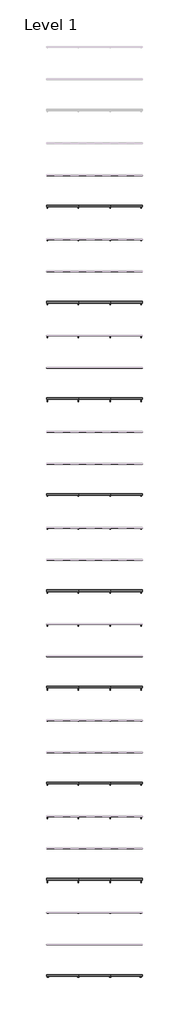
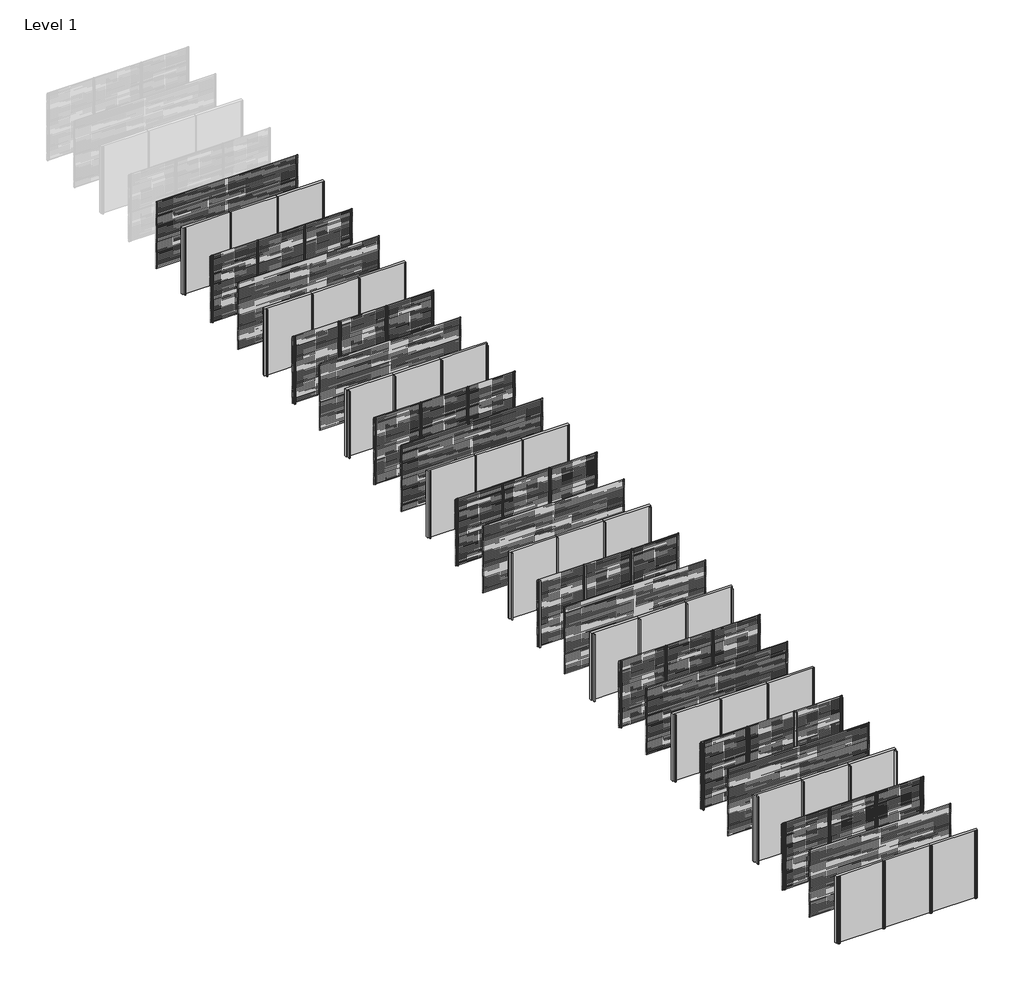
# One storey, part 1 of 27: 68 members, 60 plates.
"""IFC4 building model written with IfcOpenShell, lengths in millimetres."""

from ifc_helpers import new_model, si_unit, origin, origin_with_axes, place, context, project, spatial, polyline, outline, extrude, transform, mapped, element, save
from components import rectangular_mullion_e1f482b2, rectangular_mullion_21e3ddae, rectangular_mullion_fb497acc, rectangular_mullion_3facce28, rectangular_mullion_6cf2c509, rectangular_mullion_8b77bd57, rectangular_mullion_2c867e25, rectangular_mullion_7803f5c4, rectangular_mullion_82152e2f, rectangular_mullion_146f339b, rectangular_mullion_aa1047c5, rectangular_mullion_c2c7736a, rectangular_mullion_35b0a916, rectangular_mullion_bd250e2e, rectangular_mullion_7b49c8f1, rectangular_mullion_2b84ad7e, rectangular_mullion_0fd695e7, rectangular_mullion_9b796d85, rectangular_mullion_dfb17e98, rectangular_mullion_6132f1f1, rectangular_mullion_8f153c19, rectangular_mullion_5b30f3fd, rectangular_mullion_5e0e8e0a, rectangular_mullion_d2d38772, rectangular_mullion_efb80f74, rectangular_mullion_aaa1fb1b, rectangular_mullion_ea9d012c, empty_system_panel_empty_90a97279

model = new_model("IFC4")

# Units and contexts
model_context = context("Model", 3, world=origin())
ifc_project = project(units=[si_unit("LENGTHUNIT", "METRE", prefix="MILLI")], contexts=[model_context])

# Site, building, storey
site = spatial("IfcSite", under=ifc_project)
building = spatial("IfcBuilding", under=site)
storey = spatial("IfcBuildingStorey", under=building, Name="Level 1", Elevation=0.0)

# Members
placement = place(None, origin())
rectangular_mullion_shape = rectangular_mullion_e1f482b2(model_context)
element("IfcMember", 1, ObjectType="Rectangular Mullion : NLRS_21_CWM_drager LD.0195_Storax", at=placement, inside=storey, context=model_context, shape_type="MappedRepresentation", body=[
    mapped(rectangular_mullion_shape, transform((4000.0, -10000.0, 0.0), x_axis=(-1.0, 0.0, 0.0), y_axis=(0.0, 1.0, 0.0), z_axis=(0.0, 0.0, -1.0))),
])
element("IfcMember", 2, ObjectType="Rectangular Mullion : NLRS_21_CWM_drager LD.0195_Storax", at=placement, inside=storey, context=model_context, shape_type="MappedRepresentation", body=[
    mapped(rectangular_mullion_shape, transform((2000.0, -10000.0, 0.0), x_axis=(-1.0, 0.0, 0.0), y_axis=(0.0, 1.0, 0.0), z_axis=(0.0, 0.0, -1.0))),
])
rectangular_mullion_2_shape = rectangular_mullion_21e3ddae(model_context)
element("IfcMember", 3, ObjectType="Rectangular Mullion : NLRS_21_CWM_drager LD.0460_Storax", at=placement, inside=storey, context=model_context, shape_type="MappedRepresentation", body=[
    mapped(rectangular_mullion_2_shape, transform((4000.0, -12000.0, 0.0), x_axis=(-1.0, 0.0, 0.0), y_axis=(0.0, 1.0, 0.0), z_axis=(0.0, 0.0, -1.0))),
])
element("IfcMember", 4, ObjectType="Rectangular Mullion : NLRS_21_CWM_drager LD.0460_Storax", at=placement, inside=storey, context=model_context, shape_type="MappedRepresentation", body=[
    mapped(rectangular_mullion_2_shape, transform((2000.0, -12000.0, 0.0), x_axis=(-1.0, 0.0, 0.0), y_axis=(0.0, 1.0, 0.0), z_axis=(0.0, 0.0, -1.0))),
])
element("IfcMember", 5, ObjectType="Rectangular Mullion : NLRS_21_CWM_drager LD.0460_Storax", at=placement, inside=storey, context=model_context, shape_type="MappedRepresentation", body=[
    mapped(rectangular_mullion_2_shape, transform((4000.0, -16000.0, 0.0), x_axis=(-1.0, 0.0, 0.0), y_axis=(0.0, 1.0, 0.0), z_axis=(0.0, 0.0, -1.0))),
])
element("IfcMember", 6, ObjectType="Rectangular Mullion : NLRS_21_CWM_drager LD.0460_Storax", at=placement, inside=storey, context=model_context, shape_type="MappedRepresentation", body=[
    mapped(rectangular_mullion_2_shape, transform((2000.0, -16000.0, 0.0), x_axis=(-1.0, 0.0, 0.0), y_axis=(0.0, 1.0, 0.0), z_axis=(0.0, 0.0, -1.0))),
])
rectangular_mullion_3_shape = rectangular_mullion_fb497acc(model_context)
element("IfcMember", 7, ObjectType="Rectangular Mullion : NLRS_21_CWM_drager LD.0995_Storax", at=placement, inside=storey, context=model_context, shape_type="MappedRepresentation", body=[
    mapped(rectangular_mullion_3_shape, transform((4000.0, -18000.0, 0.0), x_axis=(-1.0, 0.0, 0.0), y_axis=(0.0, 1.0, 0.0), z_axis=(0.0, 0.0, -1.0))),
])
element("IfcMember", 8, ObjectType="Rectangular Mullion : NLRS_21_CWM_drager LD.0995_Storax", at=placement, inside=storey, context=model_context, shape_type="MappedRepresentation", body=[
    mapped(rectangular_mullion_3_shape, transform((2000.0, -18000.0, 0.0), x_axis=(-1.0, 0.0, 0.0), y_axis=(0.0, 1.0, 0.0), z_axis=(0.0, 0.0, -1.0))),
])
element("IfcMember", 9, ObjectType="Rectangular Mullion : NLRS_21_CWM_drager LD.0995_Storax", at=placement, inside=storey, context=model_context, shape_type="MappedRepresentation", body=[
    mapped(rectangular_mullion_3_shape, transform((4000.0, -22000.0, 0.0), x_axis=(-1.0, 0.0, 0.0), y_axis=(0.0, 1.0, 0.0), z_axis=(0.0, 0.0, -1.0))),
])
element("IfcMember", 10, ObjectType="Rectangular Mullion : NLRS_21_CWM_drager LD.0995_Storax", at=placement, inside=storey, context=model_context, shape_type="MappedRepresentation", body=[
    mapped(rectangular_mullion_3_shape, transform((2000.0, -22000.0, 0.0), x_axis=(-1.0, 0.0, 0.0), y_axis=(0.0, 1.0, 0.0), z_axis=(0.0, 0.0, -1.0))),
])
rectangular_mullion_4_shape = rectangular_mullion_3facce28(model_context)
element("IfcMember", 11, ObjectType="Rectangular Mullion : NLRS_21_CWM_drager SD.014_Storax", at=placement, inside=storey, context=model_context, shape_type="MappedRepresentation", body=[
    mapped(rectangular_mullion_4_shape, transform((4000.0, -24000.0, 0.0), x_axis=(-1.0, 0.0, 0.0), y_axis=(0.0, 1.0, 0.0), z_axis=(0.0, 0.0, -1.0))),
])
element("IfcMember", 12, ObjectType="Rectangular Mullion : NLRS_21_CWM_drager SD.014_Storax", at=placement, inside=storey, context=model_context, shape_type="MappedRepresentation", body=[
    mapped(rectangular_mullion_4_shape, transform((2000.0, -24000.0, 0.0), x_axis=(-1.0, 0.0, 0.0), y_axis=(0.0, 1.0, 0.0), z_axis=(0.0, 0.0, -1.0))),
])
element("IfcMember", 13, ObjectType="Rectangular Mullion : NLRS_21_CWM_drager SD.014_Storax", at=placement, inside=storey, context=model_context, shape_type="MappedRepresentation", body=[
    mapped(rectangular_mullion_4_shape, transform((4000.0, -28000.0, 0.0), x_axis=(-1.0, 0.0, 0.0), y_axis=(0.0, 1.0, 0.0), z_axis=(0.0, 0.0, -1.0))),
])
element("IfcMember", 14, ObjectType="Rectangular Mullion : NLRS_21_CWM_drager SD.014_Storax", at=placement, inside=storey, context=model_context, shape_type="MappedRepresentation", body=[
    mapped(rectangular_mullion_4_shape, transform((2000.0, -28000.0, 0.0), x_axis=(-1.0, 0.0, 0.0), y_axis=(0.0, 1.0, 0.0), z_axis=(0.0, 0.0, -1.0))),
])
rectangular_mullion_5_shape = rectangular_mullion_6cf2c509(model_context)
element("IfcMember", 15, ObjectType="Rectangular Mullion : NLRS_21_CWM_drager SD.054_Storax", at=placement, inside=storey, context=model_context, shape_type="MappedRepresentation", body=[
    mapped(rectangular_mullion_5_shape, transform((4000.0, -30000.0, 0.0), x_axis=(-1.0, 0.0, 0.0), y_axis=(0.0, 1.0, 0.0), z_axis=(0.0, 0.0, -1.0))),
])
element("IfcMember", 16, ObjectType="Rectangular Mullion : NLRS_21_CWM_drager SD.054_Storax", at=placement, inside=storey, context=model_context, shape_type="MappedRepresentation", body=[
    mapped(rectangular_mullion_5_shape, transform((2000.0, -30000.0, 0.0), x_axis=(-1.0, 0.0, 0.0), y_axis=(0.0, 1.0, 0.0), z_axis=(0.0, 0.0, -1.0))),
])
element("IfcMember", 17, ObjectType="Rectangular Mullion : NLRS_21_CWM_drager SD.054_Storax", at=placement, inside=storey, context=model_context, shape_type="MappedRepresentation", body=[
    mapped(rectangular_mullion_5_shape, transform((4000.0, -34000.0, 0.0), x_axis=(-1.0, 0.0, 0.0), y_axis=(0.0, 1.0, 0.0), z_axis=(0.0, 0.0, -1.0))),
])
element("IfcMember", 18, ObjectType="Rectangular Mullion : NLRS_21_CWM_drager SD.054_Storax", at=placement, inside=storey, context=model_context, shape_type="MappedRepresentation", body=[
    mapped(rectangular_mullion_5_shape, transform((2000.0, -34000.0, 0.0), x_axis=(-1.0, 0.0, 0.0), y_axis=(0.0, 1.0, 0.0), z_axis=(0.0, 0.0, -1.0))),
])
rectangular_mullion_6_shape = rectangular_mullion_8b77bd57(model_context)
element("IfcMember", 19, ObjectType="Rectangular Mullion : NLRS_21_CWM_drager SD.100_Storax", at=placement, inside=storey, context=model_context, shape_type="MappedRepresentation", body=[
    mapped(rectangular_mullion_6_shape, transform((4000.0, -36000.0, 0.0), x_axis=(-1.0, 0.0, 0.0), y_axis=(0.0, 1.0, 0.0), z_axis=(0.0, 0.0, -1.0))),
])
element("IfcMember", 20, ObjectType="Rectangular Mullion : NLRS_21_CWM_drager SD.100_Storax", at=placement, inside=storey, context=model_context, shape_type="MappedRepresentation", body=[
    mapped(rectangular_mullion_6_shape, transform((2000.0, -36000.0, 0.0), x_axis=(-1.0, 0.0, 0.0), y_axis=(0.0, 1.0, 0.0), z_axis=(0.0, 0.0, -1.0))),
])
element("IfcMember", 21, ObjectType="Rectangular Mullion : NLRS_21_CWM_drager SD.100_Storax", at=placement, inside=storey, context=model_context, shape_type="MappedRepresentation", body=[
    mapped(rectangular_mullion_6_shape, transform((4000.0, -40000.0, 0.0), x_axis=(-1.0, 0.0, 0.0), y_axis=(0.0, 1.0, 0.0), z_axis=(0.0, 0.0, -1.0))),
])
element("IfcMember", 22, ObjectType="Rectangular Mullion : NLRS_21_CWM_drager SD.100_Storax", at=placement, inside=storey, context=model_context, shape_type="MappedRepresentation", body=[
    mapped(rectangular_mullion_6_shape, transform((2000.0, -40000.0, 0.0), x_axis=(-1.0, 0.0, 0.0), y_axis=(0.0, 1.0, 0.0), z_axis=(0.0, 0.0, -1.0))),
])
rectangular_mullion_7_shape = rectangular_mullion_2c867e25(model_context)
element("IfcMember", 23, ObjectType="Rectangular Mullion : NLRS_21_CWM_drager LD.0440_Storax", at=placement, inside=storey, context=model_context, shape_type="MappedRepresentation", body=[
    mapped(rectangular_mullion_7_shape, transform((4000.0, -42000.0, 0.0), x_axis=(-1.0, 0.0, 0.0), y_axis=(0.0, 1.0, 0.0), z_axis=(0.0, 0.0, -1.0))),
])
element("IfcMember", 24, ObjectType="Rectangular Mullion : NLRS_21_CWM_drager LD.0440_Storax", at=placement, inside=storey, context=model_context, shape_type="MappedRepresentation", body=[
    mapped(rectangular_mullion_7_shape, transform((2000.0, -42000.0, 0.0), x_axis=(-1.0, 0.0, 0.0), y_axis=(0.0, 1.0, 0.0), z_axis=(0.0, 0.0, -1.0))),
])
element("IfcMember", 25, ObjectType="Rectangular Mullion : NLRS_21_CWM_drager LD.0440_Storax", at=placement, inside=storey, context=model_context, shape_type="MappedRepresentation", body=[
    mapped(rectangular_mullion_7_shape, transform((4000.0, -46000.0, 0.0), x_axis=(-1.0, 0.0, 0.0), y_axis=(0.0, 1.0, 0.0), z_axis=(0.0, 0.0, -1.0))),
])
element("IfcMember", 26, ObjectType="Rectangular Mullion : NLRS_21_CWM_drager LD.0440_Storax", at=placement, inside=storey, context=model_context, shape_type="MappedRepresentation", body=[
    mapped(rectangular_mullion_7_shape, transform((2000.0, -46000.0, 0.0), x_axis=(-1.0, 0.0, 0.0), y_axis=(0.0, 1.0, 0.0), z_axis=(0.0, 0.0, -1.0))),
])
rectangular_mullion_8_shape = rectangular_mullion_7803f5c4(model_context)
element("IfcMember", 27, ObjectType="Rectangular Mullion : NLRS_21_CWM_drager LD.1250_Storax", at=placement, inside=storey, context=model_context, shape_type="MappedRepresentation", body=[
    mapped(rectangular_mullion_8_shape, transform((4000.0, -48000.0, 0.0), x_axis=(-1.0, 0.0, 0.0), y_axis=(0.0, 1.0, 0.0), z_axis=(0.0, 0.0, -1.0))),
])
element("IfcMember", 28, ObjectType="Rectangular Mullion : NLRS_21_CWM_drager LD.1250_Storax", at=placement, inside=storey, context=model_context, shape_type="MappedRepresentation", body=[
    mapped(rectangular_mullion_8_shape, transform((2000.0, -48000.0, 0.0), x_axis=(-1.0, 0.0, 0.0), y_axis=(0.0, 1.0, 0.0), z_axis=(0.0, 0.0, -1.0))),
])
element("IfcMember", 29, ObjectType="Rectangular Mullion : NLRS_21_CWM_drager LD.1250_Storax", at=placement, inside=storey, context=model_context, shape_type="MappedRepresentation", body=[
    mapped(rectangular_mullion_8_shape, transform((4000.0, -52000.0, 0.0), x_axis=(-1.0, 0.0, 0.0), y_axis=(0.0, 1.0, 0.0), z_axis=(0.0, 0.0, -1.0))),
])
element("IfcMember", 30, ObjectType="Rectangular Mullion : NLRS_21_CWM_drager LD.1250_Storax", at=placement, inside=storey, context=model_context, shape_type="MappedRepresentation", body=[
    mapped(rectangular_mullion_8_shape, transform((2000.0, -52000.0, 0.0), x_axis=(-1.0, 0.0, 0.0), y_axis=(0.0, 1.0, 0.0), z_axis=(0.0, 0.0, -1.0))),
])
rectangular_mullion_9_shape = rectangular_mullion_82152e2f(model_context)
element("IfcMember", 31, ObjectType="Rectangular Mullion : NLRS_21_CWM_drager LD.0240_Storax", at=placement, inside=storey, context=model_context, shape_type="MappedRepresentation", body=[
    mapped(rectangular_mullion_9_shape, transform((4000.0, -54000.0, 0.0), x_axis=(-1.0, 0.0, 0.0), y_axis=(0.0, 1.0, 0.0), z_axis=(0.0, 0.0, -1.0))),
])
element("IfcMember", 32, ObjectType="Rectangular Mullion : NLRS_21_CWM_drager LD.0240_Storax", at=placement, inside=storey, context=model_context, shape_type="MappedRepresentation", body=[
    mapped(rectangular_mullion_9_shape, transform((2000.0, -54000.0, 0.0), x_axis=(-1.0, 0.0, 0.0), y_axis=(0.0, 1.0, 0.0), z_axis=(0.0, 0.0, -1.0))),
])
element("IfcMember", 33, ObjectType="Rectangular Mullion : NLRS_21_CWM_drager LD.0240_Storax", at=placement, inside=storey, context=model_context, shape_type="MappedRepresentation", body=[
    mapped(rectangular_mullion_9_shape, transform((4000.0, -58000.0, 0.0), x_axis=(-1.0, 0.0, 0.0), y_axis=(0.0, 1.0, 0.0), z_axis=(0.0, 0.0, -1.0))),
])
element("IfcMember", 34, ObjectType="Rectangular Mullion : NLRS_21_CWM_drager LD.0240_Storax", at=placement, inside=storey, context=model_context, shape_type="MappedRepresentation", body=[
    mapped(rectangular_mullion_9_shape, transform((2000.0, -58000.0, 0.0), x_axis=(-1.0, 0.0, 0.0), y_axis=(0.0, 1.0, 0.0), z_axis=(0.0, 0.0, -1.0))),
])
rectangular_mullion_10_shape = rectangular_mullion_146f339b(model_context)
element("IfcMember", 35, ObjectType="Rectangular Mullion : NLRS_21_CWM_drager LD.0195 - links_Storax", at=placement, inside=storey, context=model_context, shape_type="MappedRepresentation", body=[
    mapped(rectangular_mullion_10_shape, transform((0.0, -10000.0, 0.0), x_axis=(-1.0, 0.0, 0.0), y_axis=(0.0, 1.0, 0.0), z_axis=(0.0, 0.0, -1.0))),
])
rectangular_mullion_11_shape = rectangular_mullion_aa1047c5(model_context)
element("IfcMember", 36, ObjectType="Rectangular Mullion : NLRS_21_CWM_drager LD.0195 - rechts_Storax", at=placement, inside=storey, context=model_context, shape_type="MappedRepresentation", body=[
    mapped(rectangular_mullion_11_shape, transform((6000.0, -10000.0, 3000.0), x_axis=(1.0, 0.0, 0.0), y_axis=(0.0, 1.0, 0.0), z_axis=(0.0, 0.0, 1.0))),
])
rectangular_mullion_12_shape = rectangular_mullion_c2c7736a(model_context)
element("IfcMember", 37, ObjectType="Rectangular Mullion : NLRS_21_CWM_drager LD.0460 - links_Storax", at=placement, inside=storey, context=model_context, shape_type="MappedRepresentation", body=[
    mapped(rectangular_mullion_12_shape, transform((0.0, -12000.0, 0.0), x_axis=(-1.0, 0.0, 0.0), y_axis=(0.0, 1.0, 0.0), z_axis=(0.0, 0.0, -1.0))),
])
element("IfcMember", 38, ObjectType="Rectangular Mullion : NLRS_21_CWM_drager LD.0460 - links_Storax", at=placement, inside=storey, context=model_context, shape_type="MappedRepresentation", body=[
    mapped(rectangular_mullion_12_shape, transform((0.0, -16000.0, 0.0), x_axis=(-1.0, 0.0, 0.0), y_axis=(0.0, 1.0, 0.0), z_axis=(0.0, 0.0, -1.0))),
])
rectangular_mullion_13_shape = rectangular_mullion_35b0a916(model_context)
element("IfcMember", 39, ObjectType="Rectangular Mullion : NLRS_21_CWM_drager LD.0460 - rechts_Storax", at=placement, inside=storey, context=model_context, shape_type="MappedRepresentation", body=[
    mapped(rectangular_mullion_13_shape, transform((6000.0, -12000.0, 3000.0), x_axis=(1.0, 0.0, 0.0), y_axis=(0.0, 1.0, 0.0), z_axis=(0.0, 0.0, 1.0))),
])
element("IfcMember", 40, ObjectType="Rectangular Mullion : NLRS_21_CWM_drager LD.0460 - rechts_Storax", at=placement, inside=storey, context=model_context, shape_type="MappedRepresentation", body=[
    mapped(rectangular_mullion_13_shape, transform((6000.0, -16000.0, 3000.0), x_axis=(1.0, 0.0, 0.0), y_axis=(0.0, 1.0, 0.0), z_axis=(0.0, 0.0, 1.0))),
])
rectangular_mullion_14_shape = rectangular_mullion_bd250e2e(model_context)
element("IfcMember", 41, ObjectType="Rectangular Mullion : NLRS_21_CWM_drager LD.0995 - links_Storax", at=placement, inside=storey, context=model_context, shape_type="MappedRepresentation", body=[
    mapped(rectangular_mullion_14_shape, transform((0.0, -18000.0, 0.0), x_axis=(-1.0, 0.0, 0.0), y_axis=(0.0, 1.0, 0.0), z_axis=(0.0, 0.0, -1.0))),
])
element("IfcMember", 42, ObjectType="Rectangular Mullion : NLRS_21_CWM_drager LD.0995 - links_Storax", at=placement, inside=storey, context=model_context, shape_type="MappedRepresentation", body=[
    mapped(rectangular_mullion_14_shape, transform((0.0, -22000.0, 0.0), x_axis=(-1.0, 0.0, 0.0), y_axis=(0.0, 1.0, 0.0), z_axis=(0.0, 0.0, -1.0))),
])
rectangular_mullion_15_shape = rectangular_mullion_7b49c8f1(model_context)
element("IfcMember", 43, ObjectType="Rectangular Mullion : NLRS_21_CWM_drager LD.0995 - rechts_Storax", at=placement, inside=storey, context=model_context, shape_type="MappedRepresentation", body=[
    mapped(rectangular_mullion_15_shape, transform((6000.0, -18000.0, 3000.0), x_axis=(1.0, 0.0, 0.0), y_axis=(0.0, 1.0, 0.0), z_axis=(0.0, 0.0, 1.0))),
])
element("IfcMember", 44, ObjectType="Rectangular Mullion : NLRS_21_CWM_drager LD.0995 - rechts_Storax", at=placement, inside=storey, context=model_context, shape_type="MappedRepresentation", body=[
    mapped(rectangular_mullion_15_shape, transform((6000.0, -22000.0, 3000.0), x_axis=(1.0, 0.0, 0.0), y_axis=(0.0, 1.0, 0.0), z_axis=(0.0, 0.0, 1.0))),
])
rectangular_mullion_16_shape = rectangular_mullion_2b84ad7e(model_context)
element("IfcMember", 45, ObjectType="Rectangular Mullion : NLRS_21_CWM_drager SD.014 - links_Storax", at=placement, inside=storey, context=model_context, shape_type="MappedRepresentation", body=[
    mapped(rectangular_mullion_16_shape, transform((0.0, -24000.0, 0.0), x_axis=(-1.0, 0.0, 0.0), y_axis=(0.0, 1.0, 0.0), z_axis=(0.0, 0.0, -1.0))),
])
element("IfcMember", 46, ObjectType="Rectangular Mullion : NLRS_21_CWM_drager SD.014 - links_Storax", at=placement, inside=storey, context=model_context, shape_type="MappedRepresentation", body=[
    mapped(rectangular_mullion_16_shape, transform((0.0, -28000.0, 0.0), x_axis=(-1.0, 0.0, 0.0), y_axis=(0.0, 1.0, 0.0), z_axis=(0.0, 0.0, -1.0))),
])
rectangular_mullion_17_shape = rectangular_mullion_0fd695e7(model_context)
element("IfcMember", 47, ObjectType="Rectangular Mullion : NLRS_21_CWM_drager SD.014 - rechts_Storax", at=placement, inside=storey, context=model_context, shape_type="MappedRepresentation", body=[
    mapped(rectangular_mullion_17_shape, transform((6000.0, -24000.0, 3000.0), x_axis=(1.0, 0.0, 0.0), y_axis=(0.0, 1.0, 0.0), z_axis=(0.0, 0.0, 1.0))),
])
element("IfcMember", 48, ObjectType="Rectangular Mullion : NLRS_21_CWM_drager SD.014 - rechts_Storax", at=placement, inside=storey, context=model_context, shape_type="MappedRepresentation", body=[
    mapped(rectangular_mullion_17_shape, transform((6000.0, -28000.0, 3000.0), x_axis=(1.0, 0.0, 0.0), y_axis=(0.0, 1.0, 0.0), z_axis=(0.0, 0.0, 1.0))),
])
rectangular_mullion_18_shape = rectangular_mullion_9b796d85(model_context)
element("IfcMember", 49, ObjectType="Rectangular Mullion : NLRS_21_CWM_drager SD.054 - links_Storax", at=placement, inside=storey, context=model_context, shape_type="MappedRepresentation", body=[
    mapped(rectangular_mullion_18_shape, transform((0.0, -30000.0, 0.0), x_axis=(-1.0, 0.0, 0.0), y_axis=(0.0, 1.0, 0.0), z_axis=(0.0, 0.0, -1.0))),
])
element("IfcMember", 50, ObjectType="Rectangular Mullion : NLRS_21_CWM_drager SD.054 - links_Storax", at=placement, inside=storey, context=model_context, shape_type="MappedRepresentation", body=[
    mapped(rectangular_mullion_18_shape, transform((0.0, -34000.0, 0.0), x_axis=(-1.0, 0.0, 0.0), y_axis=(0.0, 1.0, 0.0), z_axis=(0.0, 0.0, -1.0))),
])
rectangular_mullion_19_shape = rectangular_mullion_dfb17e98(model_context)
element("IfcMember", 51, ObjectType="Rectangular Mullion : NLRS_21_CWM_drager SD.054 - rechts_Storax", at=placement, inside=storey, context=model_context, shape_type="MappedRepresentation", body=[
    mapped(rectangular_mullion_19_shape, transform((6000.0, -30000.0, 3000.0), x_axis=(1.0, 0.0, 0.0), y_axis=(0.0, 1.0, 0.0), z_axis=(0.0, 0.0, 1.0))),
])
element("IfcMember", 52, ObjectType="Rectangular Mullion : NLRS_21_CWM_drager SD.054 - rechts_Storax", at=placement, inside=storey, context=model_context, shape_type="MappedRepresentation", body=[
    mapped(rectangular_mullion_19_shape, transform((6000.0, -34000.0, 3000.0), x_axis=(1.0, 0.0, 0.0), y_axis=(0.0, 1.0, 0.0), z_axis=(0.0, 0.0, 1.0))),
])
rectangular_mullion_20_shape = rectangular_mullion_6132f1f1(model_context)
element("IfcMember", 53, ObjectType="Rectangular Mullion : NLRS_21_CWM_drager SD.100 - links_Storax", at=placement, inside=storey, context=model_context, shape_type="MappedRepresentation", body=[
    mapped(rectangular_mullion_20_shape, transform((0.0, -36000.0, 0.0), x_axis=(-1.0, 0.0, 0.0), y_axis=(0.0, 1.0, 0.0), z_axis=(0.0, 0.0, -1.0))),
])
element("IfcMember", 54, ObjectType="Rectangular Mullion : NLRS_21_CWM_drager SD.100 - links_Storax", at=placement, inside=storey, context=model_context, shape_type="MappedRepresentation", body=[
    mapped(rectangular_mullion_20_shape, transform((0.0, -40000.0, 0.0), x_axis=(-1.0, 0.0, 0.0), y_axis=(0.0, 1.0, 0.0), z_axis=(0.0, 0.0, -1.0))),
])
rectangular_mullion_21_shape = rectangular_mullion_8f153c19(model_context)
element("IfcMember", 55, ObjectType="Rectangular Mullion : NLRS_21_CWM_drager SD.100 - rechts_Storax", at=placement, inside=storey, context=model_context, shape_type="MappedRepresentation", body=[
    mapped(rectangular_mullion_21_shape, transform((6000.0, -36000.0, 3000.0), x_axis=(1.0, 0.0, 0.0), y_axis=(0.0, 1.0, 0.0), z_axis=(0.0, 0.0, 1.0))),
])
element("IfcMember", 56, ObjectType="Rectangular Mullion : NLRS_21_CWM_drager SD.100 - rechts_Storax", at=placement, inside=storey, context=model_context, shape_type="MappedRepresentation", body=[
    mapped(rectangular_mullion_21_shape, transform((6000.0, -40000.0, 3000.0), x_axis=(1.0, 0.0, 0.0), y_axis=(0.0, 1.0, 0.0), z_axis=(0.0, 0.0, 1.0))),
])
rectangular_mullion_22_shape = rectangular_mullion_5b30f3fd(model_context)
element("IfcMember", 57, ObjectType="Rectangular Mullion : NLRS_21_CWM_drager LD.0440 - links_Storax", at=placement, inside=storey, context=model_context, shape_type="MappedRepresentation", body=[
    mapped(rectangular_mullion_22_shape, transform((0.0, -42000.0, 0.0), x_axis=(-1.0, 0.0, 0.0), y_axis=(0.0, 1.0, 0.0), z_axis=(0.0, 0.0, -1.0))),
])
element("IfcMember", 58, ObjectType="Rectangular Mullion : NLRS_21_CWM_drager LD.0440 - links_Storax", at=placement, inside=storey, context=model_context, shape_type="MappedRepresentation", body=[
    mapped(rectangular_mullion_22_shape, transform((0.0, -46000.0, 0.0), x_axis=(-1.0, 0.0, 0.0), y_axis=(0.0, 1.0, 0.0), z_axis=(0.0, 0.0, -1.0))),
])
rectangular_mullion_23_shape = rectangular_mullion_5e0e8e0a(model_context)
element("IfcMember", 59, ObjectType="Rectangular Mullion : NLRS_21_CWM_drager LD.0440 - rechts_Storax", at=placement, inside=storey, context=model_context, shape_type="MappedRepresentation", body=[
    mapped(rectangular_mullion_23_shape, transform((6000.0, -42000.0, 3000.0), x_axis=(1.0, 0.0, 0.0), y_axis=(0.0, 1.0, 0.0), z_axis=(0.0, 0.0, 1.0))),
])
element("IfcMember", 60, ObjectType="Rectangular Mullion : NLRS_21_CWM_drager LD.0440 - rechts_Storax", at=placement, inside=storey, context=model_context, shape_type="MappedRepresentation", body=[
    mapped(rectangular_mullion_23_shape, transform((6000.0, -46000.0, 3000.0), x_axis=(1.0, 0.0, 0.0), y_axis=(0.0, 1.0, 0.0), z_axis=(0.0, 0.0, 1.0))),
])
rectangular_mullion_24_shape = rectangular_mullion_d2d38772(model_context)
element("IfcMember", 61, ObjectType="Rectangular Mullion : NLRS_21_CWM_drager LD.1250 - links_Storax", at=placement, inside=storey, context=model_context, shape_type="MappedRepresentation", body=[
    mapped(rectangular_mullion_24_shape, transform((0.0, -48000.0, 0.0), x_axis=(-1.0, 0.0, 0.0), y_axis=(0.0, 1.0, 0.0), z_axis=(0.0, 0.0, -1.0))),
])
element("IfcMember", 62, ObjectType="Rectangular Mullion : NLRS_21_CWM_drager LD.1250 - links_Storax", at=placement, inside=storey, context=model_context, shape_type="MappedRepresentation", body=[
    mapped(rectangular_mullion_24_shape, transform((0.0, -52000.0, 0.0), x_axis=(-1.0, 0.0, 0.0), y_axis=(0.0, 1.0, 0.0), z_axis=(0.0, 0.0, -1.0))),
])
rectangular_mullion_25_shape = rectangular_mullion_efb80f74(model_context)
element("IfcMember", 63, ObjectType="Rectangular Mullion : NLRS_21_CWM_drager LD.1250 - rechts_Storax", at=placement, inside=storey, context=model_context, shape_type="MappedRepresentation", body=[
    mapped(rectangular_mullion_25_shape, transform((6000.0, -48000.0, 3000.0), x_axis=(1.0, 0.0, 0.0), y_axis=(0.0, 1.0, 0.0), z_axis=(0.0, 0.0, 1.0))),
])
element("IfcMember", 64, ObjectType="Rectangular Mullion : NLRS_21_CWM_drager LD.1250 - rechts_Storax", at=placement, inside=storey, context=model_context, shape_type="MappedRepresentation", body=[
    mapped(rectangular_mullion_25_shape, transform((6000.0, -52000.0, 3000.0), x_axis=(1.0, 0.0, 0.0), y_axis=(0.0, 1.0, 0.0), z_axis=(0.0, 0.0, 1.0))),
])
rectangular_mullion_26_shape = rectangular_mullion_aaa1fb1b(model_context)
element("IfcMember", 65, ObjectType="Rectangular Mullion : NLRS_21_CWM_drager LD.0240 - links_Storax", at=placement, inside=storey, context=model_context, shape_type="MappedRepresentation", body=[
    mapped(rectangular_mullion_26_shape, transform((0.0, -54000.0, 0.0), x_axis=(-1.0, 0.0, 0.0), y_axis=(0.0, 1.0, 0.0), z_axis=(0.0, 0.0, -1.0))),
])
element("IfcMember", 66, ObjectType="Rectangular Mullion : NLRS_21_CWM_drager LD.0240 - links_Storax", at=placement, inside=storey, context=model_context, shape_type="MappedRepresentation", body=[
    mapped(rectangular_mullion_26_shape, transform((0.0, -58000.0, 0.0), x_axis=(-1.0, 0.0, 0.0), y_axis=(0.0, 1.0, 0.0), z_axis=(0.0, 0.0, -1.0))),
])
rectangular_mullion_27_shape = rectangular_mullion_ea9d012c(model_context)
element("IfcMember", 67, ObjectType="Rectangular Mullion : NLRS_21_CWM_drager LD.0240 - rechts_Storax", at=placement, inside=storey, context=model_context, shape_type="MappedRepresentation", body=[
    mapped(rectangular_mullion_27_shape, transform((6000.0, -54000.0, 3000.0), x_axis=(1.0, 0.0, 0.0), y_axis=(0.0, 1.0, 0.0), z_axis=(0.0, 0.0, 1.0))),
])
element("IfcMember", 68, ObjectType="Rectangular Mullion : NLRS_21_CWM_drager LD.0240 - rechts_Storax", at=placement, inside=storey, context=model_context, shape_type="MappedRepresentation", body=[
    mapped(rectangular_mullion_27_shape, transform((6000.0, -58000.0, 3000.0), x_axis=(1.0, 0.0, 0.0), y_axis=(0.0, 1.0, 0.0), z_axis=(0.0, 0.0, 1.0))),
])

# Plates
element("IfcPlate", 69, ObjectType="NLRS_21_WA_lamellenwand Linius - L.066CL_Storax", at=placement, inside=storey, context=model_context, shape_type="SweptSolid", body=[
    extrude(outline(polyline([(0.0, -7999.0), (6000.0, -7999.0), (6000.0, -8001.0), (0.0, -8001.0), (0.0, -7999.0)])), origin_with_axes(), (0.0, 0.0, 1.0), 3000.0),
])
element("IfcPlate", 70, ObjectType="NLRS_21_WA_lamellenwand Linius - L.066CL_Storax", at=placement, inside=storey, context=model_context, shape_type="SweptSolid", body=[
    extrude(outline(polyline([(0.0, -11999.0), (2000.0, -11999.0), (2000.0, -12001.0), (0.0, -12001.0), (0.0, -11999.0)])), origin_with_axes(), (0.0, 0.0, 1.0), 3000.0),
])
element("IfcPlate", 71, ObjectType="NLRS_21_WA_lamellenwand Linius - L.066CL_Storax", at=placement, inside=storey, context=model_context, shape_type="SweptSolid", body=[
    extrude(outline(polyline([(2000.0, -11999.0), (4000.0, -11999.0), (4000.0, -12001.0), (2000.0, -12001.0), (2000.0, -11999.0)])), origin_with_axes(), (0.0, 0.0, 1.0), 3000.0),
])
element("IfcPlate", 72, ObjectType="NLRS_21_WA_lamellenwand Linius - L.066CL_Storax", at=placement, inside=storey, context=model_context, shape_type="SweptSolid", body=[
    extrude(outline(polyline([(4000.0, -11999.0), (6000.0, -11999.0), (6000.0, -12001.0), (4000.0, -12001.0), (4000.0, -11999.0)])), origin_with_axes(), (0.0, 0.0, 1.0), 3000.0),
])
element("IfcPlate", 73, ObjectType="NLRS_21_WA_lamellenwand Linius - L.066CL_Storax", at=placement, inside=storey, context=model_context, shape_type="SweptSolid", body=[
    extrude(outline(polyline([(0.0, -13999.0), (6000.0, -13999.0), (6000.0, -14001.0), (0.0, -14001.0), (0.0, -13999.0)])), origin_with_axes(), (0.0, 0.0, 1.0), 3000.0),
])
element("IfcPlate", 74, ObjectType="NLRS_21_WA_lamellenwand Linius - L.066CL_Storax", at=placement, inside=storey, context=model_context, shape_type="SweptSolid", body=[
    extrude(outline(polyline([(0.0, -17999.0), (2000.0, -17999.0), (2000.0, -18001.0), (0.0, -18001.0), (0.0, -17999.0)])), origin_with_axes(), (0.0, 0.0, 1.0), 3000.0),
])
element("IfcPlate", 75, ObjectType="NLRS_21_WA_lamellenwand Linius - L.066CL_Storax", at=placement, inside=storey, context=model_context, shape_type="SweptSolid", body=[
    extrude(outline(polyline([(2000.0, -17999.0), (4000.0, -17999.0), (4000.0, -18001.0), (2000.0, -18001.0), (2000.0, -17999.0)])), origin_with_axes(), (0.0, 0.0, 1.0), 3000.0),
])
element("IfcPlate", 76, ObjectType="NLRS_21_WA_lamellenwand Linius - L.066CL_Storax", at=placement, inside=storey, context=model_context, shape_type="SweptSolid", body=[
    extrude(outline(polyline([(4000.0, -17999.0), (6000.0, -17999.0), (6000.0, -18001.0), (4000.0, -18001.0), (4000.0, -17999.0)])), origin_with_axes(), (0.0, 0.0, 1.0), 3000.0),
])
element("IfcPlate", 77, ObjectType="NLRS_21_WA_lamellenwand Linius - L.066CL_Storax", at=placement, inside=storey, context=model_context, shape_type="SweptSolid", body=[
    extrude(outline(polyline([(0.0, -19999.0), (6000.0, -19999.0), (6000.0, -20001.0), (0.0, -20001.0), (0.0, -19999.0)])), origin_with_axes(), (0.0, 0.0, 1.0), 3000.0),
])
element("IfcPlate", 78, ObjectType="NLRS_21_WA_lamellenwand Linius - L.066CL_Storax", at=placement, inside=storey, context=model_context, shape_type="SweptSolid", body=[
    extrude(outline(polyline([(0.0, -23999.0), (2000.0, -23999.0), (2000.0, -24001.0), (0.0, -24001.0), (0.0, -23999.0)])), origin_with_axes(), (0.0, 0.0, 1.0), 3000.0),
])
element("IfcPlate", 79, ObjectType="NLRS_21_WA_lamellenwand Linius - L.066CL_Storax", at=placement, inside=storey, context=model_context, shape_type="SweptSolid", body=[
    extrude(outline(polyline([(2000.0, -23999.0), (4000.0, -23999.0), (4000.0, -24001.0), (2000.0, -24001.0), (2000.0, -23999.0)])), origin_with_axes(), (0.0, 0.0, 1.0), 3000.0),
])
element("IfcPlate", 80, ObjectType="NLRS_21_WA_lamellenwand Linius - L.066CL_Storax", at=placement, inside=storey, context=model_context, shape_type="SweptSolid", body=[
    extrude(outline(polyline([(4000.0, -23999.0), (6000.0, -23999.0), (6000.0, -24001.0), (4000.0, -24001.0), (4000.0, -23999.0)])), origin_with_axes(), (0.0, 0.0, 1.0), 3000.0),
])
element("IfcPlate", 81, ObjectType="NLRS_21_WA_lamellenwand Linius - L.066CL_Storax", at=placement, inside=storey, context=model_context, shape_type="SweptSolid", body=[
    extrude(outline(polyline([(0.0, -25999.0), (6000.0, -25999.0), (6000.0, -26001.0), (0.0, -26001.0), (0.0, -25999.0)])), origin_with_axes(), (0.0, 0.0, 1.0), 3000.0),
])
element("IfcPlate", 82, ObjectType="NLRS_21_WA_lamellenwand Linius - L.066CL_Storax", at=placement, inside=storey, context=model_context, shape_type="SweptSolid", body=[
    extrude(outline(polyline([(0.0, -29999.0), (2000.0, -29999.0), (2000.0, -30001.0), (0.0, -30001.0), (0.0, -29999.0)])), origin_with_axes(), (0.0, 0.0, 1.0), 3000.0),
])
element("IfcPlate", 83, ObjectType="NLRS_21_WA_lamellenwand Linius - L.066CL_Storax", at=placement, inside=storey, context=model_context, shape_type="SweptSolid", body=[
    extrude(outline(polyline([(2000.0, -29999.0), (4000.0, -29999.0), (4000.0, -30001.0), (2000.0, -30001.0), (2000.0, -29999.0)])), origin_with_axes(), (0.0, 0.0, 1.0), 3000.0),
])
element("IfcPlate", 84, ObjectType="NLRS_21_WA_lamellenwand Linius - L.066CL_Storax", at=placement, inside=storey, context=model_context, shape_type="SweptSolid", body=[
    extrude(outline(polyline([(4000.0, -29999.0), (6000.0, -29999.0), (6000.0, -30001.0), (4000.0, -30001.0), (4000.0, -29999.0)])), origin_with_axes(), (0.0, 0.0, 1.0), 3000.0),
])
element("IfcPlate", 85, ObjectType="NLRS_21_WA_lamellenwand Linius - L.066CL_Storax", at=placement, inside=storey, context=model_context, shape_type="SweptSolid", body=[
    extrude(outline(polyline([(0.0, -31999.0), (6000.0, -31999.0), (6000.0, -32001.0), (0.0, -32001.0), (0.0, -31999.0)])), origin_with_axes(), (0.0, 0.0, 1.0), 3000.0),
])
element("IfcPlate", 86, ObjectType="NLRS_21_WA_lamellenwand Linius - L.066CL_Storax", at=placement, inside=storey, context=model_context, shape_type="SweptSolid", body=[
    extrude(outline(polyline([(0.0, -35999.0), (2000.0, -35999.0), (2000.0, -36001.0), (0.0, -36001.0), (0.0, -35999.0)])), origin_with_axes(), (0.0, 0.0, 1.0), 3000.0),
])
element("IfcPlate", 87, ObjectType="NLRS_21_WA_lamellenwand Linius - L.066CL_Storax", at=placement, inside=storey, context=model_context, shape_type="SweptSolid", body=[
    extrude(outline(polyline([(2000.0, -35999.0), (4000.0, -35999.0), (4000.0, -36001.0), (2000.0, -36001.0), (2000.0, -35999.0)])), origin_with_axes(), (0.0, 0.0, 1.0), 3000.0),
])
element("IfcPlate", 88, ObjectType="NLRS_21_WA_lamellenwand Linius - L.066CL_Storax", at=placement, inside=storey, context=model_context, shape_type="SweptSolid", body=[
    extrude(outline(polyline([(4000.0, -35999.0), (6000.0, -35999.0), (6000.0, -36001.0), (4000.0, -36001.0), (4000.0, -35999.0)])), origin_with_axes(), (0.0, 0.0, 1.0), 3000.0),
])
element("IfcPlate", 89, ObjectType="NLRS_21_WA_lamellenwand Linius - L.066CL_Storax", at=placement, inside=storey, context=model_context, shape_type="SweptSolid", body=[
    extrude(outline(polyline([(0.0, -37999.0), (6000.0, -37999.0), (6000.0, -38001.0), (0.0, -38001.0), (0.0, -37999.0)])), origin_with_axes(), (0.0, 0.0, 1.0), 3000.0),
])
element("IfcPlate", 90, ObjectType="NLRS_21_WA_lamellenwand Linius - L.066CL_Storax", at=placement, inside=storey, context=model_context, shape_type="SweptSolid", body=[
    extrude(outline(polyline([(0.0, -41999.0), (2000.0, -41999.0), (2000.0, -42001.0), (0.0, -42001.0), (0.0, -41999.0)])), origin_with_axes(), (0.0, 0.0, 1.0), 3000.0),
])
element("IfcPlate", 91, ObjectType="NLRS_21_WA_lamellenwand Linius - L.066CL_Storax", at=placement, inside=storey, context=model_context, shape_type="SweptSolid", body=[
    extrude(outline(polyline([(2000.0, -41999.0), (4000.0, -41999.0), (4000.0, -42001.0), (2000.0, -42001.0), (2000.0, -41999.0)])), origin_with_axes(), (0.0, 0.0, 1.0), 3000.0),
])
element("IfcPlate", 92, ObjectType="NLRS_21_WA_lamellenwand Linius - L.066CL_Storax", at=placement, inside=storey, context=model_context, shape_type="SweptSolid", body=[
    extrude(outline(polyline([(4000.0, -41999.0), (6000.0, -41999.0), (6000.0, -42001.0), (4000.0, -42001.0), (4000.0, -41999.0)])), origin_with_axes(), (0.0, 0.0, 1.0), 3000.0),
])
element("IfcPlate", 93, ObjectType="NLRS_21_WA_lamellenwand Linius - L.066CL_Storax", at=placement, inside=storey, context=model_context, shape_type="SweptSolid", body=[
    extrude(outline(polyline([(0.0, -43999.0), (6000.0, -43999.0), (6000.0, -44001.0), (0.0, -44001.0), (0.0, -43999.0)])), origin_with_axes(), (0.0, 0.0, 1.0), 3000.0),
])
element("IfcPlate", 94, ObjectType="NLRS_21_WA_lamellenwand Linius - L.066CL_Storax", at=placement, inside=storey, context=model_context, shape_type="SweptSolid", body=[
    extrude(outline(polyline([(0.0, -47999.0), (2000.0, -47999.0), (2000.0, -48001.0), (0.0, -48001.0), (0.0, -47999.0)])), origin_with_axes(), (0.0, 0.0, 1.0), 3000.0),
])
element("IfcPlate", 95, ObjectType="NLRS_21_WA_lamellenwand Linius - L.066CL_Storax", at=placement, inside=storey, context=model_context, shape_type="SweptSolid", body=[
    extrude(outline(polyline([(2000.0, -47999.0), (4000.0, -47999.0), (4000.0, -48001.0), (2000.0, -48001.0), (2000.0, -47999.0)])), origin_with_axes(), (0.0, 0.0, 1.0), 3000.0),
])
element("IfcPlate", 96, ObjectType="NLRS_21_WA_lamellenwand Linius - L.066CL_Storax", at=placement, inside=storey, context=model_context, shape_type="SweptSolid", body=[
    extrude(outline(polyline([(4000.0, -47999.0), (6000.0, -47999.0), (6000.0, -48001.0), (4000.0, -48001.0), (4000.0, -47999.0)])), origin_with_axes(), (0.0, 0.0, 1.0), 3000.0),
])
element("IfcPlate", 97, ObjectType="NLRS_21_WA_lamellenwand Linius - L.066CL_Storax", at=placement, inside=storey, context=model_context, shape_type="SweptSolid", body=[
    extrude(outline(polyline([(0.0, -49999.0), (6000.0, -49999.0), (6000.0, -50001.0), (0.0, -50001.0), (0.0, -49999.0)])), origin_with_axes(), (0.0, 0.0, 1.0), 3000.0),
])
element("IfcPlate", 98, ObjectType="NLRS_21_WA_lamellenwand Linius - L.066CL_Storax", at=placement, inside=storey, context=model_context, shape_type="SweptSolid", body=[
    extrude(outline(polyline([(0.0, -53999.0), (2000.0, -53999.0), (2000.0, -54001.0), (0.0, -54001.0), (0.0, -53999.0)])), origin_with_axes(), (0.0, 0.0, 1.0), 3000.0),
])
element("IfcPlate", 99, ObjectType="NLRS_21_WA_lamellenwand Linius - L.066CL_Storax", at=placement, inside=storey, context=model_context, shape_type="SweptSolid", body=[
    extrude(outline(polyline([(2000.0, -53999.0), (4000.0, -53999.0), (4000.0, -54001.0), (2000.0, -54001.0), (2000.0, -53999.0)])), origin_with_axes(), (0.0, 0.0, 1.0), 3000.0),
])
element("IfcPlate", 100, ObjectType="NLRS_21_WA_lamellenwand Linius - L.066CL_Storax", at=placement, inside=storey, context=model_context, shape_type="SweptSolid", body=[
    extrude(outline(polyline([(4000.0, -53999.0), (6000.0, -53999.0), (6000.0, -54001.0), (4000.0, -54001.0), (4000.0, -53999.0)])), origin_with_axes(), (0.0, 0.0, 1.0), 3000.0),
])
element("IfcPlate", 101, ObjectType="NLRS_21_WA_lamellenwand Linius - L.066CL_Storax", at=placement, inside=storey, context=model_context, shape_type="SweptSolid", body=[
    extrude(outline(polyline([(0.0, -55999.0), (6000.0, -55999.0), (6000.0, -56001.0), (0.0, -56001.0), (0.0, -55999.0)])), origin_with_axes(), (0.0, 0.0, 1.0), 3000.0),
])
empty_system_panel_empty_shape = empty_system_panel_empty_90a97279(model_context)
element("IfcPlate", 102, ObjectType="Empty System Panel : Empty", at=placement, inside=storey, context=model_context, shape_type="MappedRepresentation", body=[
    mapped(empty_system_panel_empty_shape, transform((5000.0, -10000.0, 0.0), x_axis=(-1.0, 0.0, 0.0), y_axis=(0.0, -1.0, 0.0), z_axis=(0.0, 0.0, 1.0))),
])
element("IfcPlate", 103, ObjectType="Empty System Panel : Empty", at=placement, inside=storey, context=model_context, shape_type="MappedRepresentation", body=[
    mapped(empty_system_panel_empty_shape, transform((5000.0, -16000.0, 0.0), x_axis=(-1.0, 0.0, 0.0), y_axis=(0.0, -1.0, 0.0), z_axis=(0.0, 0.0, 1.0))),
])
element("IfcPlate", 104, ObjectType="Empty System Panel : Empty", at=placement, inside=storey, context=model_context, shape_type="MappedRepresentation", body=[
    mapped(empty_system_panel_empty_shape, transform((5000.0, -22000.0, 0.0), x_axis=(-1.0, 0.0, 0.0), y_axis=(0.0, -1.0, 0.0), z_axis=(0.0, 0.0, 1.0))),
])
element("IfcPlate", 105, ObjectType="Empty System Panel : Empty", at=placement, inside=storey, context=model_context, shape_type="MappedRepresentation", body=[
    mapped(empty_system_panel_empty_shape, transform((5000.0, -28000.0, 0.0), x_axis=(-1.0, 0.0, 0.0), y_axis=(0.0, -1.0, 0.0), z_axis=(0.0, 0.0, 1.0))),
])
element("IfcPlate", 106, ObjectType="Empty System Panel : Empty", at=placement, inside=storey, context=model_context, shape_type="MappedRepresentation", body=[
    mapped(empty_system_panel_empty_shape, transform((5000.0, -34000.0, 0.0), x_axis=(-1.0, 0.0, 0.0), y_axis=(0.0, -1.0, 0.0), z_axis=(0.0, 0.0, 1.0))),
])
element("IfcPlate", 107, ObjectType="Empty System Panel : Empty", at=placement, inside=storey, context=model_context, shape_type="MappedRepresentation", body=[
    mapped(empty_system_panel_empty_shape, transform((5000.0, -40000.0, 0.0), x_axis=(-1.0, 0.0, 0.0), y_axis=(0.0, -1.0, 0.0), z_axis=(0.0, 0.0, 1.0))),
])
element("IfcPlate", 108, ObjectType="Empty System Panel : Empty", at=placement, inside=storey, context=model_context, shape_type="MappedRepresentation", body=[
    mapped(empty_system_panel_empty_shape, transform((5000.0, -46000.0, 0.0), x_axis=(-1.0, 0.0, 0.0), y_axis=(0.0, -1.0, 0.0), z_axis=(0.0, 0.0, 1.0))),
])
element("IfcPlate", 109, ObjectType="Empty System Panel : Empty", at=placement, inside=storey, context=model_context, shape_type="MappedRepresentation", body=[
    mapped(empty_system_panel_empty_shape, transform((5000.0, -52000.0, 0.0), x_axis=(-1.0, 0.0, 0.0), y_axis=(0.0, -1.0, 0.0), z_axis=(0.0, 0.0, 1.0))),
])
element("IfcPlate", 110, ObjectType="Empty System Panel : Empty", at=placement, inside=storey, context=model_context, shape_type="MappedRepresentation", body=[
    mapped(empty_system_panel_empty_shape, transform((5000.0, -58000.0, 0.0), x_axis=(-1.0, 0.0, 0.0), y_axis=(0.0, -1.0, 0.0), z_axis=(0.0, 0.0, 1.0))),
])
element("IfcPlate", 111, ObjectType="Empty System Panel : Empty", at=placement, inside=storey, context=model_context, shape_type="MappedRepresentation", body=[
    mapped(empty_system_panel_empty_shape, transform((3000.0, -10000.0, 0.0), x_axis=(-1.0, 0.0, 0.0), y_axis=(0.0, -1.0, 0.0), z_axis=(0.0, 0.0, 1.0))),
])
element("IfcPlate", 112, ObjectType="Empty System Panel : Empty", at=placement, inside=storey, context=model_context, shape_type="MappedRepresentation", body=[
    mapped(empty_system_panel_empty_shape, transform((1000.0, -10000.0, 0.0), x_axis=(-1.0, 0.0, 0.0), y_axis=(0.0, -1.0, 0.0), z_axis=(0.0, 0.0, 1.0))),
])
element("IfcPlate", 113, ObjectType="Empty System Panel : Empty", at=placement, inside=storey, context=model_context, shape_type="MappedRepresentation", body=[
    mapped(empty_system_panel_empty_shape, transform((3000.0, -16000.0, 0.0), x_axis=(-1.0, 0.0, 0.0), y_axis=(0.0, -1.0, 0.0), z_axis=(0.0, 0.0, 1.0))),
])
element("IfcPlate", 114, ObjectType="Empty System Panel : Empty", at=placement, inside=storey, context=model_context, shape_type="MappedRepresentation", body=[
    mapped(empty_system_panel_empty_shape, transform((1000.0, -16000.0, 0.0), x_axis=(-1.0, 0.0, 0.0), y_axis=(0.0, -1.0, 0.0), z_axis=(0.0, 0.0, 1.0))),
])
element("IfcPlate", 115, ObjectType="Empty System Panel : Empty", at=placement, inside=storey, context=model_context, shape_type="MappedRepresentation", body=[
    mapped(empty_system_panel_empty_shape, transform((3000.0, -22000.0, 0.0), x_axis=(-1.0, 0.0, 0.0), y_axis=(0.0, -1.0, 0.0), z_axis=(0.0, 0.0, 1.0))),
])
element("IfcPlate", 116, ObjectType="Empty System Panel : Empty", at=placement, inside=storey, context=model_context, shape_type="MappedRepresentation", body=[
    mapped(empty_system_panel_empty_shape, transform((1000.0, -22000.0, 0.0), x_axis=(-1.0, 0.0, 0.0), y_axis=(0.0, -1.0, 0.0), z_axis=(0.0, 0.0, 1.0))),
])
element("IfcPlate", 117, ObjectType="Empty System Panel : Empty", at=placement, inside=storey, context=model_context, shape_type="MappedRepresentation", body=[
    mapped(empty_system_panel_empty_shape, transform((3000.0, -28000.0, 0.0), x_axis=(-1.0, 0.0, 0.0), y_axis=(0.0, -1.0, 0.0), z_axis=(0.0, 0.0, 1.0))),
])
element("IfcPlate", 118, ObjectType="Empty System Panel : Empty", at=placement, inside=storey, context=model_context, shape_type="MappedRepresentation", body=[
    mapped(empty_system_panel_empty_shape, transform((1000.0, -28000.0, 0.0), x_axis=(-1.0, 0.0, 0.0), y_axis=(0.0, -1.0, 0.0), z_axis=(0.0, 0.0, 1.0))),
])
element("IfcPlate", 119, ObjectType="Empty System Panel : Empty", at=placement, inside=storey, context=model_context, shape_type="MappedRepresentation", body=[
    mapped(empty_system_panel_empty_shape, transform((3000.0, -34000.0, 0.0), x_axis=(-1.0, 0.0, 0.0), y_axis=(0.0, -1.0, 0.0), z_axis=(0.0, 0.0, 1.0))),
])
element("IfcPlate", 120, ObjectType="Empty System Panel : Empty", at=placement, inside=storey, context=model_context, shape_type="MappedRepresentation", body=[
    mapped(empty_system_panel_empty_shape, transform((1000.0, -34000.0, 0.0), x_axis=(-1.0, 0.0, 0.0), y_axis=(0.0, -1.0, 0.0), z_axis=(0.0, 0.0, 1.0))),
])
element("IfcPlate", 121, ObjectType="Empty System Panel : Empty", at=placement, inside=storey, context=model_context, shape_type="MappedRepresentation", body=[
    mapped(empty_system_panel_empty_shape, transform((3000.0, -40000.0, 0.0), x_axis=(-1.0, 0.0, 0.0), y_axis=(0.0, -1.0, 0.0), z_axis=(0.0, 0.0, 1.0))),
])
element("IfcPlate", 122, ObjectType="Empty System Panel : Empty", at=placement, inside=storey, context=model_context, shape_type="MappedRepresentation", body=[
    mapped(empty_system_panel_empty_shape, transform((1000.0, -40000.0, 0.0), x_axis=(-1.0, 0.0, 0.0), y_axis=(0.0, -1.0, 0.0), z_axis=(0.0, 0.0, 1.0))),
])
element("IfcPlate", 123, ObjectType="Empty System Panel : Empty", at=placement, inside=storey, context=model_context, shape_type="MappedRepresentation", body=[
    mapped(empty_system_panel_empty_shape, transform((3000.0, -46000.0, 0.0), x_axis=(-1.0, 0.0, 0.0), y_axis=(0.0, -1.0, 0.0), z_axis=(0.0, 0.0, 1.0))),
])
element("IfcPlate", 124, ObjectType="Empty System Panel : Empty", at=placement, inside=storey, context=model_context, shape_type="MappedRepresentation", body=[
    mapped(empty_system_panel_empty_shape, transform((1000.0, -46000.0, 0.0), x_axis=(-1.0, 0.0, 0.0), y_axis=(0.0, -1.0, 0.0), z_axis=(0.0, 0.0, 1.0))),
])
element("IfcPlate", 125, ObjectType="Empty System Panel : Empty", at=placement, inside=storey, context=model_context, shape_type="MappedRepresentation", body=[
    mapped(empty_system_panel_empty_shape, transform((3000.0, -52000.0, 0.0), x_axis=(-1.0, 0.0, 0.0), y_axis=(0.0, -1.0, 0.0), z_axis=(0.0, 0.0, 1.0))),
])
element("IfcPlate", 126, ObjectType="Empty System Panel : Empty", at=placement, inside=storey, context=model_context, shape_type="MappedRepresentation", body=[
    mapped(empty_system_panel_empty_shape, transform((1000.0, -52000.0, 0.0), x_axis=(-1.0, 0.0, 0.0), y_axis=(0.0, -1.0, 0.0), z_axis=(0.0, 0.0, 1.0))),
])
element("IfcPlate", 127, ObjectType="Empty System Panel : Empty", at=placement, inside=storey, context=model_context, shape_type="MappedRepresentation", body=[
    mapped(empty_system_panel_empty_shape, transform((3000.0, -58000.0, 0.0), x_axis=(-1.0, 0.0, 0.0), y_axis=(0.0, -1.0, 0.0), z_axis=(0.0, 0.0, 1.0))),
])
element("IfcPlate", 128, ObjectType="Empty System Panel : Empty", at=placement, inside=storey, context=model_context, shape_type="MappedRepresentation", body=[
    mapped(empty_system_panel_empty_shape, transform((1000.0, -58000.0, 0.0), x_axis=(-1.0, 0.0, 0.0), y_axis=(0.0, -1.0, 0.0), z_axis=(0.0, 0.0, 1.0))),
])

save(model, "model.ifc")
